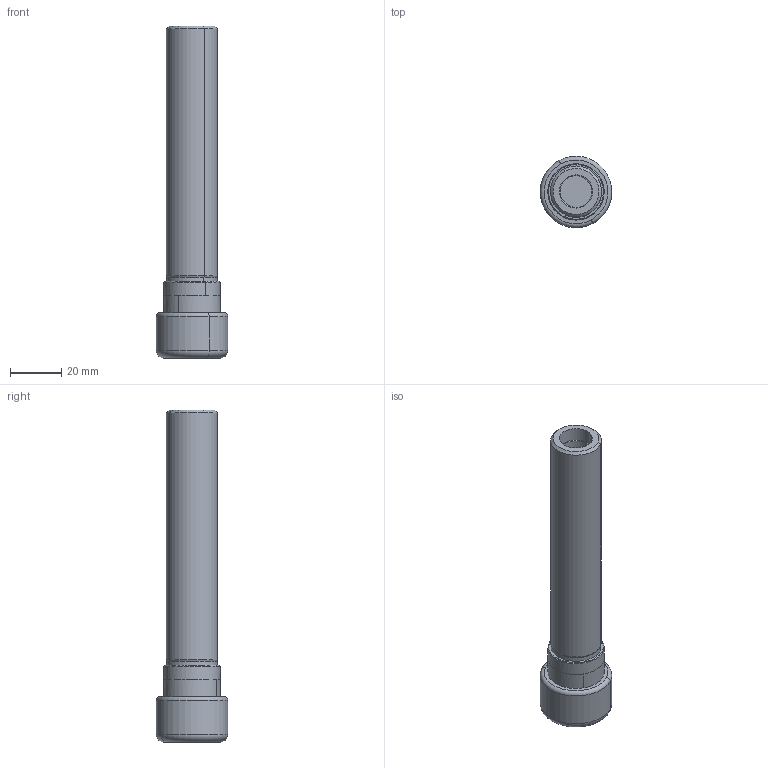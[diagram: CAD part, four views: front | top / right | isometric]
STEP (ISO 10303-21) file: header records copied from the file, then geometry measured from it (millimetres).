
FILE_DESCRIPTION(('CATIA V5 STEP','CAx-IF Rec.Pracs.--- Model Styling and Organization---1.2---2011-12-15'),'2;1');
FILE_NAME('\\nas01\drv1\utils\eitdev\rte\eit\transmagicconvert\db\out\635958933408106771\4507002 LM.stp','2016-04-10T10:55:55+00:00',('none'),('none'),'CATIA Version 5 Release 21 SP 5 (IN-10)','CATIA V5 STEP AP214','none');
FILE_SCHEMA(('AUTOMOTIVE_DESIGN { 1 0 10303 214 1 1 1 1 }'));
Length unit declared in the file: millimetre
Products named in the file (1): ST 20X100 ER16
Bounding box: 27.99 x 27.99 x 130 mm (x, y, z)
Volume: 39436.7 mm3; surface area: 11873 mm2
Topology: 1 solids, 1 shells, 44 faces, 89 edges, 52 vertices
Faces by surface type: cylinder 18, cone 11, plane 7, torus 6, extrusion 2
Entity records: 1218 total; most frequent: CARTESIAN_POINT 360, ORIENTED_EDGE 178, DIRECTION 138, EDGE_CURVE 89, AXIS2_PLACEMENT_3D 78, VERTEX_POINT 52, CIRCLE 49, EDGE_LOOP 49
